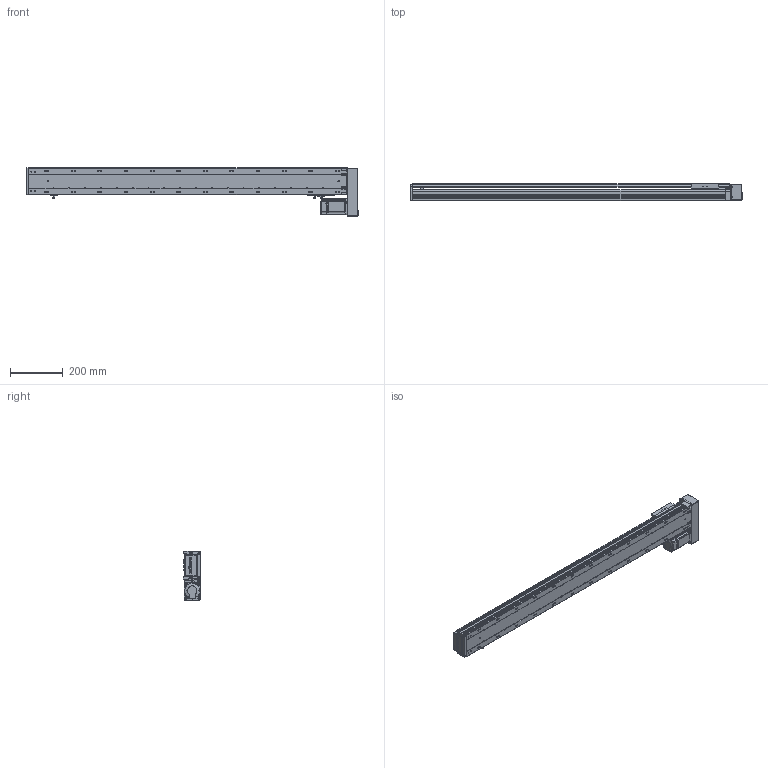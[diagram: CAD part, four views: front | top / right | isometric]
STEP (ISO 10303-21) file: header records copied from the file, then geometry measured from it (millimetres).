
FILE_DESCRIPTION (( 'STEP AP203' ), '1' );
FILE_NAME ('RY100S-L1620-950-RK(15双轨).SLDASM_1000.step', '2021-03-12T06:51:47', ( '盈信电脑' ), ( '东莞市道滘镇水果街19号' ), 'SwSTEP 2.0', 'SolidWorks 2012', '' );
FILE_SCHEMA (( 'CONFIG_CONTROL_DESIGN' ));
Products named in the file (15): RY100S铝滑块（15双轨单滑块）; 覜茼ん672; RY100S-950-RK转折型材上盖(15双轨)_1000; 滅袉蝶18-10; RY100S-950-RK转折型材底座(15双轨)_1000; RY100S左右折电机罩（15双轨）; RY100S-左右折电机端-(15双轨)_550; RY100S转折电机安装板（15双轨）; RY100S-L1620-950-RK(15邧寢).SLDASM_1000; 滅袉蝶18-24; RY100綴裔啣; 侂狟200W萇儂; 1; RY100俋离覜茼え; RY100S转折电机端支撑座(15双轨)
Assembly tree (17 placements, depth 4):
  RY100S-L1620-950-RK(15邧寢).SLDASM_1000
    RY100S-950-RK转折型材底座(15双轨)_1000
    RY100S-950-RK转折型材上盖(15双轨)_1000
    RY100S铝滑块（15双轨单滑块）
    覜茼ん672  x3
    滅袉蝶18-10  x2
    RY100俋离覜茼え
    RY100S转折电机端支撑座(15双轨)
    滅袉蝶18-24
    RY100綴裔啣
    RY100S-左右折电机端-(15双轨)_550
      侂狟200W萇儂
        1
      RY100S左右折电机罩（15双轨）
      RY100S转折电机安装板（15双轨）
Bounding box: 1257.5 x 65 x 186.1 mm (x, y, z)
Volume: 2467275 mm3; surface area: 1076190.3 mm2
Topology: 15 solids, 15 shells, 2526 faces, 7111 edges, 4622 vertices
Faces by surface type: plane 1294, cylinder 1007, cone 137, bspline 88
Entity records: 83792 total; most frequent: CARTESIAN_POINT 21580, ORIENTED_EDGE 13030, DIRECTION 12160, EDGE_CURVE 6515, VERTEX_POINT 4290, AXIS2_PLACEMENT_3D 4117, LINE 3926, VECTOR 3926
